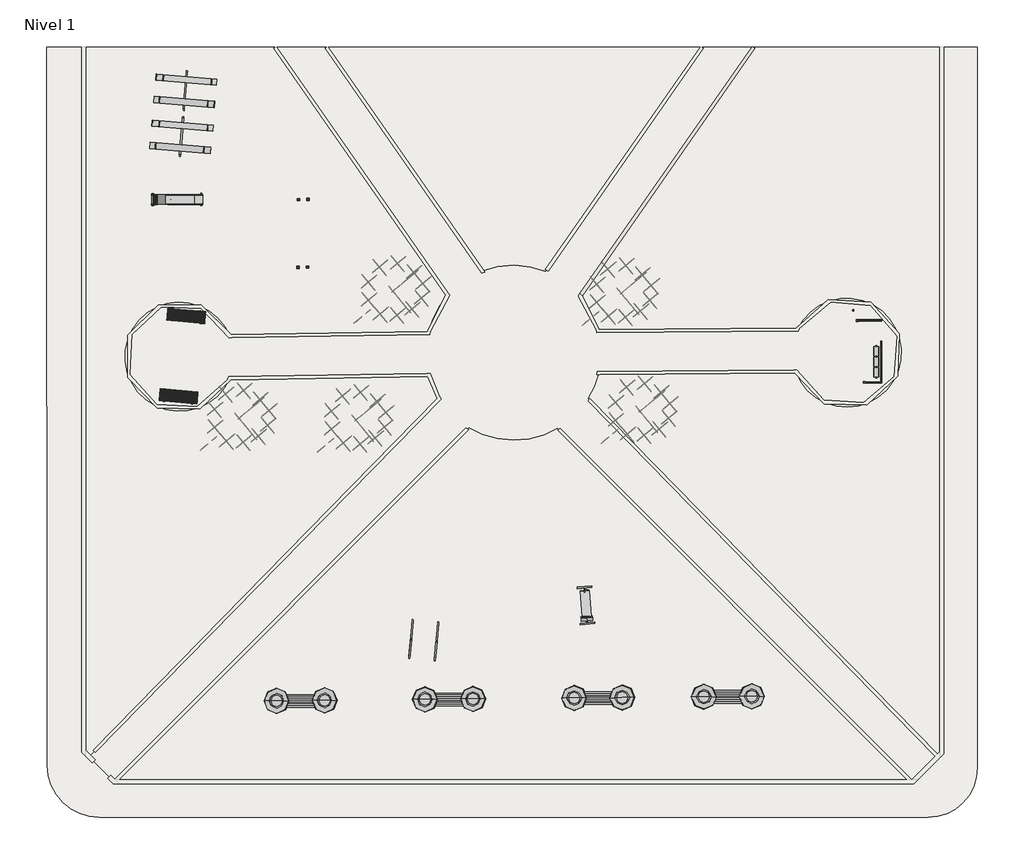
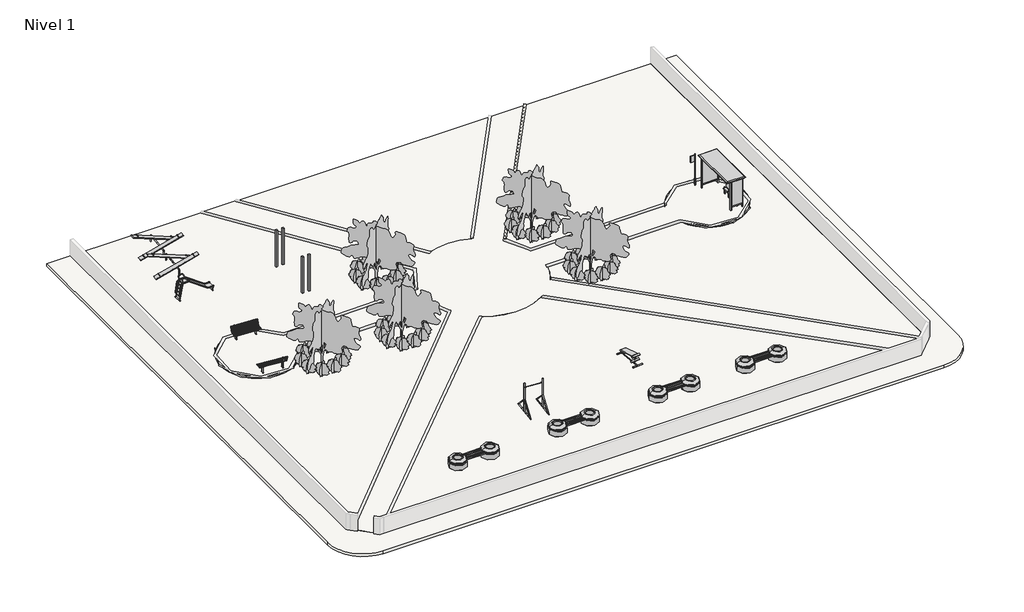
# One storey, part 2 of 2: 62 geographic elements, 5 slabs, 4 columns, 4 proxies, 1 furniture element, 1 wall.
"""IFC4 building model written with IfcOpenShell, lengths in millimetres."""

from ifc_helpers import new_model, si_unit, point, frame, frame_2d, origin, origin_with_axes, place, context, project, spatial, polyline, circle_curve, trimmed, segment, composite_curve, outline, extrude, transform, mapped, element, save
from components import free_weight_bench_4763_d84bd0a1, pull_up_bar_10004_pull_up_bar_c63d5902, see_saw_6871_see_saw_6871_e7888e2e, m_pilar_de_madera_b508f74c, furniture_a3808f5e, geographic_element_22c99d3a, geographic_element_cce4a2fd, geographic_element_1800mm_804ad783, geographic_element_3_4_x_3_2_m_97ed3e57, m_rpc_planta_tropical_630d91e0

model = new_model("IFC4")

# Units and contexts
model_context = context("Model", 3, world=origin())
ifc_project = project(units=[si_unit("LENGTHUNIT", "METRE", prefix="MILLI")], contexts=[model_context])

# Site, building, storey
site = spatial("IfcSite", under=ifc_project)
building = spatial("IfcBuilding", under=site)
storey = spatial("IfcBuildingStorey", under=building, Name="Nivel 1", Elevation=0.0)

# Proxies
placement = place(None, origin())
free_weight_bench_4763_shape = free_weight_bench_4763_d84bd0a1(model_context)
element("IfcBuildingElementProxy", 1, Name="Free_Weight_Bench_4763 : Leg_Extension_2465[1]", ObjectType="Free_Weight_Bench_4763 : Leg_Extension_2465[1]", at=placement, inside=storey, context=model_context, shape_type="MappedRepresentation", body=[
    mapped(free_weight_bench_4763_shape, transform((3094.1151895, 1456.5314446, 0.0), x_axis=(-0.07975910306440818, 0.9968141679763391, 0.0), y_axis=(-0.9968141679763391, -0.07975910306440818, 0.0), z_axis=(0.0, 0.0, 1.0))),
])
pull_up_bar_10004_pull_up_bar_shape = pull_up_bar_10004_pull_up_bar_c63d5902(model_context)
element("IfcBuildingElementProxy", 2, Name="Pull-Up_Bar_10004 : Pull-Up Bar", ObjectType="Pull-Up_Bar_10004 : Pull-Up Bar", at=placement, inside=storey, context=model_context, shape_type="MappedRepresentation", body=[
    mapped(pull_up_bar_10004_pull_up_bar_shape, transform((-3624.3629567, 710.0308073, 0.0), x_axis=(-0.9955203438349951, 0.09454758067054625, 0.0), y_axis=(-0.09454758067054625, -0.9955203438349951, 0.0), z_axis=(0.0, 0.0, 1.0))),
])
see_saw_6871_see_saw_6871_shape = see_saw_6871_see_saw_6871_e7888e2e(model_context)
element("IfcBuildingElementProxy", 3, Name="See_Saw_6871 : See_Saw_6871", ObjectType="See_Saw_6871 : See_Saw_6871", at=placement, inside=storey, context=model_context, shape_type="MappedRepresentation", body=[
    mapped(see_saw_6871_see_saw_6871_shape, transform((-14986.708454, 26891.7437946, 0.0), x_axis=(-0.9964872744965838, 0.0837443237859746, 0.0), y_axis=(-0.0837443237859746, -0.9964872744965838, 0.0), z_axis=(0.0, 0.0, 1.0))),
])
element("IfcBuildingElementProxy", 4, Name="See_Saw_6871 : See_Saw_6871", ObjectType="See_Saw_6871 : See_Saw_6871", at=placement, inside=storey, context=model_context, shape_type="MappedRepresentation", body=[
    mapped(see_saw_6871_see_saw_6871_shape, transform((-15170.9459663, 24699.4717907, 0.0), x_axis=(-0.9964872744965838, 0.0837443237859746, 0.0), y_axis=(-0.0837443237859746, -0.9964872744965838, 0.0), z_axis=(0.0, 0.0, 1.0))),
])

# Columns
m_pilar_de_madera_shape = m_pilar_de_madera_b508f74c(model_context)
element("IfcColumn", 5, ObjectType="M_Pilar de madera : 114 x 114 para culumpio", at=placement, inside=storey, context=model_context, shape_type="MappedRepresentation", body=[
    mapped(m_pilar_de_madera_shape, transform((-9148.3329493, 21712.3354365, 0.0), x_axis=(-0.007565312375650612, 0.9999713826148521, 0.0), y_axis=(-0.9999713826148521, -0.007565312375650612, 0.0), z_axis=(0.0, 0.0, 1.0))),
])
element("IfcColumn", 6, ObjectType="M_Pilar de madera : 114 x 114 para culumpio", at=placement, inside=storey, context=model_context, shape_type="MappedRepresentation", body=[
    mapped(m_pilar_de_madera_shape, transform((-9602.548604, 21708.4691926, 0.0), x_axis=(-0.007565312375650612, 0.9999713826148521, 0.0), y_axis=(-0.9999713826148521, -0.007565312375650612, 0.0), z_axis=(0.0, 0.0, 1.0))),
])
element("IfcColumn", 7, ObjectType="M_Pilar de madera : 114 x 114 para culumpio", at=placement, inside=storey, context=model_context, shape_type="MappedRepresentation", body=[
    mapped(m_pilar_de_madera_shape, transform((-9624.3389808, 18488.2069609, 0.0), x_axis=(-0.007565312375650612, 0.9999713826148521, 0.0), y_axis=(-0.9999713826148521, -0.007565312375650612, 0.0), z_axis=(0.0, 0.0, 1.0))),
])
element("IfcColumn", 8, ObjectType="M_Pilar de madera : 114 x 114 para culumpio", at=placement, inside=storey, context=model_context, shape_type="MappedRepresentation", body=[
    mapped(m_pilar_de_madera_shape, transform((-9168.5028964, 18494.2529775, 0.0), x_axis=(-0.007565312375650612, 0.9999713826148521, 0.0), y_axis=(-0.9999713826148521, -0.007565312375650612, 0.0), z_axis=(0.0, 0.0, 1.0))),
])

# Furniture
furniture_shape = furniture_a3808f5e(model_context)
element("IfcFurniture", 9, ObjectType="Escorregador_-_Slide_18603 : Escorregador_-_Slide_18603", at=placement, inside=storey, context=model_context, shape_type="MappedRepresentation", body=[
    mapped(furniture_shape, transform((-15374.5605653, 21712.3201099, 0.0), x_axis=(0.0, -1.0, 0.0), y_axis=(1.0, 0.0, 0.0), z_axis=(0.0, 0.0, 1.0))),
])

# Geographic elements
geographic_element_shape = geographic_element_22c99d3a(model_context)
element("IfcGeographicElement", 10, ObjectType="M_RPC Árbol - Caducifolio : Saúco - 4,5 metros", at=placement, inside=storey, context=model_context, shape_type="MappedRepresentation", body=[
    mapped(geographic_element_shape, transform((-12429.044991, 11289.6247779, 0.0), x_axis=(-0.6370839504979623, 0.7707944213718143, 0.0), y_axis=(-0.7707944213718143, -0.6370839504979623, 0.0), z_axis=(0.0, 0.0, 1.0))),
])
element("IfcGeographicElement", 11, ObjectType="M_RPC Árbol - Caducifolio : Saúco - 4,5 metros", at=placement, inside=storey, context=model_context, shape_type="MappedRepresentation", body=[
    mapped(geographic_element_shape, transform((-5102.7981747, 17344.9803106, 0.0), x_axis=(-0.6370839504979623, 0.7707944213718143, 0.0), y_axis=(-0.7707944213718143, -0.6370839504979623, 0.0), z_axis=(0.0, 0.0, 1.0))),
])
element("IfcGeographicElement", 12, ObjectType="M_RPC Árbol - Caducifolio : Saúco - 4,5 metros", at=placement, inside=storey, context=model_context, shape_type="MappedRepresentation", body=[
    mapped(geographic_element_shape, transform((5773.8938272, 17247.1149279, 0.0), x_axis=(-0.6370839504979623, 0.7707944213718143, 0.0), y_axis=(-0.7707944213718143, -0.6370839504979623, 0.0), z_axis=(0.0, 0.0, 1.0))),
])
element("IfcGeographicElement", 13, ObjectType="M_RPC Árbol - Caducifolio : Saúco - 4,5 metros", at=placement, inside=storey, context=model_context, shape_type="MappedRepresentation", body=[
    mapped(geographic_element_shape, transform((6668.445781, 11620.3593758, 0.0), x_axis=(-0.6370839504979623, 0.7707944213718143, 0.0), y_axis=(-0.7707944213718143, -0.6370839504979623, 0.0), z_axis=(0.0, 0.0, 1.0))),
])
element("IfcGeographicElement", 14, ObjectType="M_RPC Árbol - Caducifolio : Saúco - 4,5 metros", at=placement, inside=storey, context=model_context, shape_type="MappedRepresentation", body=[
    mapped(geographic_element_shape, transform((-6860.0935006, 11200.5129926, 0.0), x_axis=(-0.6370839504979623, 0.7707944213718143, 0.0), y_axis=(-0.7707944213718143, -0.6370839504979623, 0.0), z_axis=(0.0, 0.0, 1.0))),
])
geographic_element_2_shape = geographic_element_cce4a2fd(model_context)
element("IfcGeographicElement", 15, ObjectType="1454343723545-Bus stop : 1454343723545-Bus stop", at=placement, inside=storey, context=model_context, shape_type="MappedRepresentation", body=[
    mapped(geographic_element_2_shape, transform((18187.3090453, 14474.6119556, 12.5), x_axis=(-0.0032588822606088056, 0.9999946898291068, 0.0), y_axis=(-0.9999946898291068, -0.0032588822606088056, 0.0), z_axis=(0.0, 0.0, 1.0))),
])
geographic_element_1800mm_shape = geographic_element_1800mm_804ad783(model_context)
element("IfcGeographicElement", 16, ObjectType="M_Banco de parque : 1800mm", at=placement, inside=storey, context=model_context, shape_type="MappedRepresentation", body=[
    mapped(geographic_element_1800mm_shape, transform((-14939.7315285, 16196.5066111, 12.5), x_axis=(-0.9962320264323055, 0.08672802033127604, 0.0), y_axis=(-0.08672802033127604, -0.9962320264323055, 0.0), z_axis=(0.0, 0.0, 1.0))),
])
element("IfcGeographicElement", 17, ObjectType="M_Banco de parque : 1800mm", at=placement, inside=storey, context=model_context, shape_type="MappedRepresentation", body=[
    mapped(geographic_element_1800mm_shape, transform((-15309.6928818, 12299.8968152, 12.5), x_axis=(0.996232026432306, -0.08672802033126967, 0.0), y_axis=(0.08672802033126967, 0.996232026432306, 0.0), z_axis=(0.0, 0.0, 1.0))),
])
geographic_element_3_4_x_3_2_m_shape = geographic_element_3_4_x_3_2_m_97ed3e57(model_context)
element("IfcGeographicElement", 18, ObjectType="Puesto de flores con banco - 2 piezas : 3.4 x 3.2 m", at=placement, inside=storey, context=model_context, shape_type="MappedRepresentation", body=[
    mapped(geographic_element_3_4_x_3_2_m_shape, transform((10854.4729483, -1974.2765597, 0.0), x_axis=(-0.9999551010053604, -0.0094760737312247, 0.0), y_axis=(0.0094760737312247, -0.9999551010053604, 0.0), z_axis=(0.0, 0.0, 1.0))),
])
element("IfcGeographicElement", 19, ObjectType="Puesto de flores con banco - 2 piezas : 3.4 x 3.2 m", at=placement, inside=storey, context=model_context, shape_type="MappedRepresentation", body=[
    mapped(geographic_element_3_4_x_3_2_m_shape, transform((4680.4293775, -2032.7848788, 0.0), x_axis=(-0.9999551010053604, -0.0094760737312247, 0.0), y_axis=(0.0094760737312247, -0.9999551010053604, 0.0), z_axis=(0.0, 0.0, 1.0))),
])
element("IfcGeographicElement", 20, ObjectType="Puesto de flores con banco - 2 piezas : 3.4 x 3.2 m", at=placement, inside=storey, context=model_context, shape_type="MappedRepresentation", body=[
    mapped(geographic_element_3_4_x_3_2_m_shape, transform((-2424.3185292, -2100.1130168, 0.0), x_axis=(-0.9999551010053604, -0.0094760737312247, 0.0), y_axis=(0.0094760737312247, -0.9999551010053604, 0.0), z_axis=(0.0, 0.0, 1.0))),
])
element("IfcGeographicElement", 21, ObjectType="Puesto de flores con banco - 2 piezas : 3.4 x 3.2 m", at=placement, inside=storey, context=model_context, shape_type="MappedRepresentation", body=[
    mapped(geographic_element_3_4_x_3_2_m_shape, transform((-9493.226469, -2167.1015173, 0.0), x_axis=(-0.9999551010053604, -0.0094760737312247, 0.0), y_axis=(0.0094760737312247, -0.9999551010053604, 0.0), z_axis=(0.0, 0.0, 1.0))),
])
m_rpc_planta_tropical_shape = m_rpc_planta_tropical_630d91e0(model_context)
element("IfcGeographicElement", 22, ObjectType="M_RPC Planta - Tropical : Ixora coccinea - 1,0 metros", at=placement, inside=storey, context=model_context, shape_type="MappedRepresentation", body=[
    mapped(m_rpc_planta_tropical_shape, transform((-11517.8322012, 10441.0206934, 0.0), x_axis=(-0.6370839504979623, 0.7707944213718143, 0.0), y_axis=(-0.7707944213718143, -0.6370839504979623, 0.0), z_axis=(0.0, 0.0, 1.0))),
])
element("IfcGeographicElement", 23, ObjectType="M_RPC Planta - Tropical : Ixora coccinea - 1,0 metros", at=placement, inside=storey, context=model_context, shape_type="MappedRepresentation", body=[
    mapped(m_rpc_planta_tropical_shape, transform((-12232.6748707, 10146.9217796, 0.0), x_axis=(-0.6370839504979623, 0.7707944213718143, 0.0), y_axis=(-0.7707944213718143, -0.6370839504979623, 0.0), z_axis=(0.0, 0.0, 1.0))),
])
element("IfcGeographicElement", 24, ObjectType="M_RPC Planta - Tropical : Ixora coccinea - 1,0 metros", at=placement, inside=storey, context=model_context, shape_type="MappedRepresentation", body=[
    mapped(m_rpc_planta_tropical_shape, transform((-13035.3079291, 10202.1621158, 0.0), x_axis=(-0.6370839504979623, 0.7707944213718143, 0.0), y_axis=(-0.7707944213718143, -0.6370839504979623, 0.0), z_axis=(0.0, 0.0, 1.0))),
])
element("IfcGeographicElement", 25, ObjectType="M_RPC Planta - Tropical : Ixora coccinea - 1,0 metros", at=placement, inside=storey, context=model_context, shape_type="MappedRepresentation", body=[
    mapped(m_rpc_planta_tropical_shape, transform((-13597.5932581, 10860.3413234, 0.0), x_axis=(-0.6370839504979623, 0.7707944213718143, 0.0), y_axis=(-0.7707944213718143, -0.6370839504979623, 0.0), z_axis=(0.0, 0.0, 1.0))),
])
element("IfcGeographicElement", 26, ObjectType="M_RPC Planta - Tropical : Ixora coccinea - 1,0 metros", at=placement, inside=storey, context=model_context, shape_type="MappedRepresentation", body=[
    mapped(m_rpc_planta_tropical_shape, transform((-13597.8871549, 11717.8038159, 0.0), x_axis=(-0.6370839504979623, 0.7707944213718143, 0.0), y_axis=(-0.7707944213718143, -0.6370839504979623, 0.0), z_axis=(0.0, 0.0, 1.0))),
])
element("IfcGeographicElement", 27, ObjectType="M_RPC Planta - Tropical : Ixora coccinea - 1,0 metros", at=placement, inside=storey, context=model_context, shape_type="MappedRepresentation", body=[
    mapped(m_rpc_planta_tropical_shape, transform((-13075.3245413, 12442.2778267, 0.0), x_axis=(-0.6370839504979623, 0.7707944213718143, 0.0), y_axis=(-0.7707944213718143, -0.6370839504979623, 0.0), z_axis=(0.0, 0.0, 1.0))),
])
element("IfcGeographicElement", 28, ObjectType="M_RPC Planta - Tropical : Ixora coccinea - 1,0 metros", at=placement, inside=storey, context=model_context, shape_type="MappedRepresentation", body=[
    mapped(m_rpc_planta_tropical_shape, transform((-12212.5306293, 12613.3790684, 0.0), x_axis=(-0.6370839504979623, 0.7707944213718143, 0.0), y_axis=(-0.7707944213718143, -0.6370839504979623, 0.0), z_axis=(0.0, 0.0, 1.0))),
])
element("IfcGeographicElement", 29, ObjectType="M_RPC Planta - Tropical : Ixora coccinea - 1,0 metros", at=placement, inside=storey, context=model_context, shape_type="MappedRepresentation", body=[
    mapped(m_rpc_planta_tropical_shape, transform((-11441.1165161, 12187.019873, 0.0), x_axis=(-0.6370839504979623, 0.7707944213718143, 0.0), y_axis=(-0.7707944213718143, -0.6370839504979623, 0.0), z_axis=(0.0, 0.0, 1.0))),
])
element("IfcGeographicElement", 30, ObjectType="M_RPC Planta - Tropical : Ixora coccinea - 1,0 metros", at=placement, inside=storey, context=model_context, shape_type="MappedRepresentation", body=[
    mapped(m_rpc_planta_tropical_shape, transform((-11003.6198854, 11657.7019361, 0.0), x_axis=(-0.6370839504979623, 0.7707944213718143, 0.0), y_axis=(-0.7707944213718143, -0.6370839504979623, 0.0), z_axis=(0.0, 0.0, 1.0))),
])
element("IfcGeographicElement", 31, ObjectType="M_RPC Planta - Tropical : Ixora coccinea - 1,0 metros", at=placement, inside=storey, context=model_context, shape_type="MappedRepresentation", body=[
    mapped(m_rpc_planta_tropical_shape, transform((-11069.8031919, 10960.8376955, 0.0), x_axis=(-0.6370839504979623, 0.7707944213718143, 0.0), y_axis=(-0.7707944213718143, -0.6370839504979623, 0.0), z_axis=(0.0, 0.0, 1.0))),
])
element("IfcGeographicElement", 32, ObjectType="M_RPC Planta - Tropical : Ixora coccinea - 1,0 metros", at=placement, inside=storey, context=model_context, shape_type="MappedRepresentation", body=[
    mapped(m_rpc_planta_tropical_shape, transform((-4191.585385, 16496.3762261, 0.0), x_axis=(-0.6370839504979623, 0.7707944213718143, 0.0), y_axis=(-0.7707944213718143, -0.6370839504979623, 0.0), z_axis=(0.0, 0.0, 1.0))),
])
element("IfcGeographicElement", 33, ObjectType="M_RPC Planta - Tropical : Ixora coccinea - 1,0 metros", at=placement, inside=storey, context=model_context, shape_type="MappedRepresentation", body=[
    mapped(m_rpc_planta_tropical_shape, transform((-4906.4280545, 16202.2773123, 0.0), x_axis=(-0.6370839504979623, 0.7707944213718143, 0.0), y_axis=(-0.7707944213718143, -0.6370839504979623, 0.0), z_axis=(0.0, 0.0, 1.0))),
])
element("IfcGeographicElement", 34, ObjectType="M_RPC Planta - Tropical : Ixora coccinea - 1,0 metros", at=placement, inside=storey, context=model_context, shape_type="MappedRepresentation", body=[
    mapped(m_rpc_planta_tropical_shape, transform((-5709.0611129, 16257.5176485, 0.0), x_axis=(-0.6370839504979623, 0.7707944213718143, 0.0), y_axis=(-0.7707944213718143, -0.6370839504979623, 0.0), z_axis=(0.0, 0.0, 1.0))),
])
element("IfcGeographicElement", 35, ObjectType="M_RPC Planta - Tropical : Ixora coccinea - 1,0 metros", at=placement, inside=storey, context=model_context, shape_type="MappedRepresentation", body=[
    mapped(m_rpc_planta_tropical_shape, transform((-6271.3464418, 16915.6968561, 0.0), x_axis=(-0.6370839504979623, 0.7707944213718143, 0.0), y_axis=(-0.7707944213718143, -0.6370839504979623, 0.0), z_axis=(0.0, 0.0, 1.0))),
])
element("IfcGeographicElement", 36, ObjectType="M_RPC Planta - Tropical : Ixora coccinea - 1,0 metros", at=placement, inside=storey, context=model_context, shape_type="MappedRepresentation", body=[
    mapped(m_rpc_planta_tropical_shape, transform((-6271.6403386, 17773.1593486, 0.0), x_axis=(-0.6370839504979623, 0.7707944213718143, 0.0), y_axis=(-0.7707944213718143, -0.6370839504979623, 0.0), z_axis=(0.0, 0.0, 1.0))),
])
element("IfcGeographicElement", 37, ObjectType="M_RPC Planta - Tropical : Ixora coccinea - 1,0 metros", at=placement, inside=storey, context=model_context, shape_type="MappedRepresentation", body=[
    mapped(m_rpc_planta_tropical_shape, transform((-5749.0777251, 18497.6333594, 0.0), x_axis=(-0.6370839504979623, 0.7707944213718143, 0.0), y_axis=(-0.7707944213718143, -0.6370839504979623, 0.0), z_axis=(0.0, 0.0, 1.0))),
])
element("IfcGeographicElement", 38, ObjectType="M_RPC Planta - Tropical : Ixora coccinea - 1,0 metros", at=placement, inside=storey, context=model_context, shape_type="MappedRepresentation", body=[
    mapped(m_rpc_planta_tropical_shape, transform((-4886.283813, 18668.7346011, 0.0), x_axis=(-0.6370839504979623, 0.7707944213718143, 0.0), y_axis=(-0.7707944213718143, -0.6370839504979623, 0.0), z_axis=(0.0, 0.0, 1.0))),
])
element("IfcGeographicElement", 39, ObjectType="M_RPC Planta - Tropical : Ixora coccinea - 1,0 metros", at=placement, inside=storey, context=model_context, shape_type="MappedRepresentation", body=[
    mapped(m_rpc_planta_tropical_shape, transform((-4114.8696998, 18242.3754057, 0.0), x_axis=(-0.6370839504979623, 0.7707944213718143, 0.0), y_axis=(-0.7707944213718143, -0.6370839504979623, 0.0), z_axis=(0.0, 0.0, 1.0))),
])
element("IfcGeographicElement", 40, ObjectType="M_RPC Planta - Tropical : Ixora coccinea - 1,0 metros", at=placement, inside=storey, context=model_context, shape_type="MappedRepresentation", body=[
    mapped(m_rpc_planta_tropical_shape, transform((-3677.3730691, 17713.0574688, 0.0), x_axis=(-0.6370839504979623, 0.7707944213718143, 0.0), y_axis=(-0.7707944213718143, -0.6370839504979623, 0.0), z_axis=(0.0, 0.0, 1.0))),
])
element("IfcGeographicElement", 41, ObjectType="M_RPC Planta - Tropical : Ixora coccinea - 1,0 metros", at=placement, inside=storey, context=model_context, shape_type="MappedRepresentation", body=[
    mapped(m_rpc_planta_tropical_shape, transform((-3743.5563756, 17016.1932281, 0.0), x_axis=(-0.6370839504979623, 0.7707944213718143, 0.0), y_axis=(-0.7707944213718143, -0.6370839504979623, 0.0), z_axis=(0.0, 0.0, 1.0))),
])
element("IfcGeographicElement", 42, ObjectType="M_RPC Planta - Tropical : Ixora coccinea - 1,0 metros", at=placement, inside=storey, context=model_context, shape_type="MappedRepresentation", body=[
    mapped(m_rpc_planta_tropical_shape, transform((6685.1066169, 16398.5108434, 0.0), x_axis=(-0.6370839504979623, 0.7707944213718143, 0.0), y_axis=(-0.7707944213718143, -0.6370839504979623, 0.0), z_axis=(0.0, 0.0, 1.0))),
])
element("IfcGeographicElement", 43, ObjectType="M_RPC Planta - Tropical : Ixora coccinea - 1,0 metros", at=placement, inside=storey, context=model_context, shape_type="MappedRepresentation", body=[
    mapped(m_rpc_planta_tropical_shape, transform((5970.2639474, 16104.4119295, 0.0), x_axis=(-0.6370839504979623, 0.7707944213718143, 0.0), y_axis=(-0.7707944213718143, -0.6370839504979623, 0.0), z_axis=(0.0, 0.0, 1.0))),
])
element("IfcGeographicElement", 44, ObjectType="M_RPC Planta - Tropical : Ixora coccinea - 1,0 metros", at=placement, inside=storey, context=model_context, shape_type="MappedRepresentation", body=[
    mapped(m_rpc_planta_tropical_shape, transform((5167.6308891, 16159.6522657, 0.0), x_axis=(-0.6370839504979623, 0.7707944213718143, 0.0), y_axis=(-0.7707944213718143, -0.6370839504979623, 0.0), z_axis=(0.0, 0.0, 1.0))),
])
element("IfcGeographicElement", 45, ObjectType="M_RPC Planta - Tropical : Ixora coccinea - 1,0 metros", at=placement, inside=storey, context=model_context, shape_type="MappedRepresentation", body=[
    mapped(m_rpc_planta_tropical_shape, transform((4605.3455601, 16817.8314733, 0.0), x_axis=(-0.6370839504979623, 0.7707944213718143, 0.0), y_axis=(-0.7707944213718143, -0.6370839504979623, 0.0), z_axis=(0.0, 0.0, 1.0))),
])
element("IfcGeographicElement", 46, ObjectType="M_RPC Planta - Tropical : Ixora coccinea - 1,0 metros", at=placement, inside=storey, context=model_context, shape_type="MappedRepresentation", body=[
    mapped(m_rpc_planta_tropical_shape, transform((4605.0516633, 17675.2939659, 0.0), x_axis=(-0.6370839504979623, 0.7707944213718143, 0.0), y_axis=(-0.7707944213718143, -0.6370839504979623, 0.0), z_axis=(0.0, 0.0, 1.0))),
])
element("IfcGeographicElement", 47, ObjectType="M_RPC Planta - Tropical : Ixora coccinea - 1,0 metros", at=placement, inside=storey, context=model_context, shape_type="MappedRepresentation", body=[
    mapped(m_rpc_planta_tropical_shape, transform((5127.6142768, 18399.7679767, 0.0), x_axis=(-0.6370839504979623, 0.7707944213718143, 0.0), y_axis=(-0.7707944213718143, -0.6370839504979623, 0.0), z_axis=(0.0, 0.0, 1.0))),
])
element("IfcGeographicElement", 48, ObjectType="M_RPC Planta - Tropical : Ixora coccinea - 1,0 metros", at=placement, inside=storey, context=model_context, shape_type="MappedRepresentation", body=[
    mapped(m_rpc_planta_tropical_shape, transform((5990.4081889, 18570.8692184, 0.0), x_axis=(-0.6370839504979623, 0.7707944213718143, 0.0), y_axis=(-0.7707944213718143, -0.6370839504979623, 0.0), z_axis=(0.0, 0.0, 1.0))),
])
element("IfcGeographicElement", 49, ObjectType="M_RPC Planta - Tropical : Ixora coccinea - 1,0 metros", at=placement, inside=storey, context=model_context, shape_type="MappedRepresentation", body=[
    mapped(m_rpc_planta_tropical_shape, transform((6761.8223021, 18144.5100229, 0.0), x_axis=(-0.6370839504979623, 0.7707944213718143, 0.0), y_axis=(-0.7707944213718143, -0.6370839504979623, 0.0), z_axis=(0.0, 0.0, 1.0))),
])
element("IfcGeographicElement", 50, ObjectType="M_RPC Planta - Tropical : Ixora coccinea - 1,0 metros", at=placement, inside=storey, context=model_context, shape_type="MappedRepresentation", body=[
    mapped(m_rpc_planta_tropical_shape, transform((7199.3189328, 17615.1920861, 0.0), x_axis=(-0.6370839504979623, 0.7707944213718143, 0.0), y_axis=(-0.7707944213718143, -0.6370839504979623, 0.0), z_axis=(0.0, 0.0, 1.0))),
])
element("IfcGeographicElement", 51, ObjectType="M_RPC Planta - Tropical : Ixora coccinea - 1,0 metros", at=placement, inside=storey, context=model_context, shape_type="MappedRepresentation", body=[
    mapped(m_rpc_planta_tropical_shape, transform((7133.1356263, 16918.3278454, 0.0), x_axis=(-0.6370839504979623, 0.7707944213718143, 0.0), y_axis=(-0.7707944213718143, -0.6370839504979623, 0.0), z_axis=(0.0, 0.0, 1.0))),
])
element("IfcGeographicElement", 52, ObjectType="M_RPC Planta - Tropical : Ixora coccinea - 1,0 metros", at=placement, inside=storey, context=model_context, shape_type="MappedRepresentation", body=[
    mapped(m_rpc_planta_tropical_shape, transform((7579.6585707, 10771.7552913, 0.0), x_axis=(-0.6370839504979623, 0.7707944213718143, 0.0), y_axis=(-0.7707944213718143, -0.6370839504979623, 0.0), z_axis=(0.0, 0.0, 1.0))),
])
element("IfcGeographicElement", 53, ObjectType="M_RPC Planta - Tropical : Ixora coccinea - 1,0 metros", at=placement, inside=storey, context=model_context, shape_type="MappedRepresentation", body=[
    mapped(m_rpc_planta_tropical_shape, transform((6864.8159012, 10477.6563774, 0.0), x_axis=(-0.6370839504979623, 0.7707944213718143, 0.0), y_axis=(-0.7707944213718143, -0.6370839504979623, 0.0), z_axis=(0.0, 0.0, 1.0))),
])
element("IfcGeographicElement", 54, ObjectType="M_RPC Planta - Tropical : Ixora coccinea - 1,0 metros", at=placement, inside=storey, context=model_context, shape_type="MappedRepresentation", body=[
    mapped(m_rpc_planta_tropical_shape, transform((6062.1828429, 10532.8967136, 0.0), x_axis=(-0.6370839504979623, 0.7707944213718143, 0.0), y_axis=(-0.7707944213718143, -0.6370839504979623, 0.0), z_axis=(0.0, 0.0, 1.0))),
])
element("IfcGeographicElement", 55, ObjectType="M_RPC Planta - Tropical : Ixora coccinea - 1,0 metros", at=placement, inside=storey, context=model_context, shape_type="MappedRepresentation", body=[
    mapped(m_rpc_planta_tropical_shape, transform((5499.8975139, 11191.0759212, 0.0), x_axis=(-0.6370839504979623, 0.7707944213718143, 0.0), y_axis=(-0.7707944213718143, -0.6370839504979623, 0.0), z_axis=(0.0, 0.0, 1.0))),
])
element("IfcGeographicElement", 56, ObjectType="M_RPC Planta - Tropical : Ixora coccinea - 1,0 metros", at=placement, inside=storey, context=model_context, shape_type="MappedRepresentation", body=[
    mapped(m_rpc_planta_tropical_shape, transform((5499.6036171, 12048.5384138, 0.0), x_axis=(-0.6370839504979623, 0.7707944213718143, 0.0), y_axis=(-0.7707944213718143, -0.6370839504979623, 0.0), z_axis=(0.0, 0.0, 1.0))),
])
element("IfcGeographicElement", 57, ObjectType="M_RPC Planta - Tropical : Ixora coccinea - 1,0 metros", at=placement, inside=storey, context=model_context, shape_type="MappedRepresentation", body=[
    mapped(m_rpc_planta_tropical_shape, transform((6022.1662306, 12773.0124246, 0.0), x_axis=(-0.6370839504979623, 0.7707944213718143, 0.0), y_axis=(-0.7707944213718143, -0.6370839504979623, 0.0), z_axis=(0.0, 0.0, 1.0))),
])
element("IfcGeographicElement", 58, ObjectType="M_RPC Planta - Tropical : Ixora coccinea - 1,0 metros", at=placement, inside=storey, context=model_context, shape_type="MappedRepresentation", body=[
    mapped(m_rpc_planta_tropical_shape, transform((6884.9601427, 12944.1136663, 0.0), x_axis=(-0.6370839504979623, 0.7707944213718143, 0.0), y_axis=(-0.7707944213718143, -0.6370839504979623, 0.0), z_axis=(0.0, 0.0, 1.0))),
])
element("IfcGeographicElement", 59, ObjectType="M_RPC Planta - Tropical : Ixora coccinea - 1,0 metros", at=placement, inside=storey, context=model_context, shape_type="MappedRepresentation", body=[
    mapped(m_rpc_planta_tropical_shape, transform((7656.3742559, 12517.7544708, 0.0), x_axis=(-0.6370839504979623, 0.7707944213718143, 0.0), y_axis=(-0.7707944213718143, -0.6370839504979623, 0.0), z_axis=(0.0, 0.0, 1.0))),
])
element("IfcGeographicElement", 60, ObjectType="M_RPC Planta - Tropical : Ixora coccinea - 1,0 metros", at=placement, inside=storey, context=model_context, shape_type="MappedRepresentation", body=[
    mapped(m_rpc_planta_tropical_shape, transform((8093.8708866, 11988.436534, 0.0), x_axis=(-0.6370839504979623, 0.7707944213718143, 0.0), y_axis=(-0.7707944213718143, -0.6370839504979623, 0.0), z_axis=(0.0, 0.0, 1.0))),
])
element("IfcGeographicElement", 61, ObjectType="M_RPC Planta - Tropical : Ixora coccinea - 1,0 metros", at=placement, inside=storey, context=model_context, shape_type="MappedRepresentation", body=[
    mapped(m_rpc_planta_tropical_shape, transform((8027.6875801, 11291.5722933, 0.0), x_axis=(-0.6370839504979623, 0.7707944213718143, 0.0), y_axis=(-0.7707944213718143, -0.6370839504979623, 0.0), z_axis=(0.0, 0.0, 1.0))),
])
element("IfcGeographicElement", 62, ObjectType="M_RPC Planta - Tropical : Ixora coccinea - 1,0 metros", at=placement, inside=storey, context=model_context, shape_type="MappedRepresentation", body=[
    mapped(m_rpc_planta_tropical_shape, transform((-5948.8807109, 10351.9089081, 0.0), x_axis=(-0.6370839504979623, 0.7707944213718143, 0.0), y_axis=(-0.7707944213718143, -0.6370839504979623, 0.0), z_axis=(0.0, 0.0, 1.0))),
])
element("IfcGeographicElement", 63, ObjectType="M_RPC Planta - Tropical : Ixora coccinea - 1,0 metros", at=placement, inside=storey, context=model_context, shape_type="MappedRepresentation", body=[
    mapped(m_rpc_planta_tropical_shape, transform((-6663.7233804, 10057.8099942, 0.0), x_axis=(-0.6370839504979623, 0.7707944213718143, 0.0), y_axis=(-0.7707944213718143, -0.6370839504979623, 0.0), z_axis=(0.0, 0.0, 1.0))),
])
element("IfcGeographicElement", 64, ObjectType="M_RPC Planta - Tropical : Ixora coccinea - 1,0 metros", at=placement, inside=storey, context=model_context, shape_type="MappedRepresentation", body=[
    mapped(m_rpc_planta_tropical_shape, transform((-7466.3564388, 10113.0503304, 0.0), x_axis=(-0.6370839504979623, 0.7707944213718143, 0.0), y_axis=(-0.7707944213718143, -0.6370839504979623, 0.0), z_axis=(0.0, 0.0, 1.0))),
])
element("IfcGeographicElement", 65, ObjectType="M_RPC Planta - Tropical : Ixora coccinea - 1,0 metros", at=placement, inside=storey, context=model_context, shape_type="MappedRepresentation", body=[
    mapped(m_rpc_planta_tropical_shape, transform((-8028.6417677, 10771.229538, 0.0), x_axis=(-0.6370839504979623, 0.7707944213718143, 0.0), y_axis=(-0.7707944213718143, -0.6370839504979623, 0.0), z_axis=(0.0, 0.0, 1.0))),
])
element("IfcGeographicElement", 66, ObjectType="M_RPC Planta - Tropical : Ixora coccinea - 1,0 metros", at=placement, inside=storey, context=model_context, shape_type="MappedRepresentation", body=[
    mapped(m_rpc_planta_tropical_shape, transform((-8028.9356645, 11628.6920306, 0.0), x_axis=(-0.6370839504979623, 0.7707944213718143, 0.0), y_axis=(-0.7707944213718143, -0.6370839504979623, 0.0), z_axis=(0.0, 0.0, 1.0))),
])
element("IfcGeographicElement", 67, ObjectType="M_RPC Planta - Tropical : Ixora coccinea - 1,0 metros", at=placement, inside=storey, context=model_context, shape_type="MappedRepresentation", body=[
    mapped(m_rpc_planta_tropical_shape, transform((-7506.373051, 12353.1660414, 0.0), x_axis=(-0.6370839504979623, 0.7707944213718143, 0.0), y_axis=(-0.7707944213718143, -0.6370839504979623, 0.0), z_axis=(0.0, 0.0, 1.0))),
])
element("IfcGeographicElement", 68, ObjectType="M_RPC Planta - Tropical : Ixora coccinea - 1,0 metros", at=placement, inside=storey, context=model_context, shape_type="MappedRepresentation", body=[
    mapped(m_rpc_planta_tropical_shape, transform((-6643.5791389, 12524.2672831, 0.0), x_axis=(-0.6370839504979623, 0.7707944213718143, 0.0), y_axis=(-0.7707944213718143, -0.6370839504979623, 0.0), z_axis=(0.0, 0.0, 1.0))),
])
element("IfcGeographicElement", 69, ObjectType="M_RPC Planta - Tropical : Ixora coccinea - 1,0 metros", at=placement, inside=storey, context=model_context, shape_type="MappedRepresentation", body=[
    mapped(m_rpc_planta_tropical_shape, transform((-5872.1650257, 12097.9080876, 0.0), x_axis=(-0.6370839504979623, 0.7707944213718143, 0.0), y_axis=(-0.7707944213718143, -0.6370839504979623, 0.0), z_axis=(0.0, 0.0, 1.0))),
])
element("IfcGeographicElement", 70, ObjectType="M_RPC Planta - Tropical : Ixora coccinea - 1,0 metros", at=placement, inside=storey, context=model_context, shape_type="MappedRepresentation", body=[
    mapped(m_rpc_planta_tropical_shape, transform((-5434.668395, 11568.5901508, 0.0), x_axis=(-0.6370839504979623, 0.7707944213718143, 0.0), y_axis=(-0.7707944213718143, -0.6370839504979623, 0.0), z_axis=(0.0, 0.0, 1.0))),
])
element("IfcGeographicElement", 71, ObjectType="M_RPC Planta - Tropical : Ixora coccinea - 1,0 metros", at=placement, inside=storey, context=model_context, shape_type="MappedRepresentation", body=[
    mapped(m_rpc_planta_tropical_shape, transform((-5500.8517015, 10871.7259101, 0.0), x_axis=(-0.6370839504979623, 0.7707944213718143, 0.0), y_axis=(-0.7707944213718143, -0.6370839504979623, 0.0), z_axis=(0.0, 0.0, 1.0))),
])

# Slabs
element("IfcSlab", 72, ObjectType="Adoquinado 150 mm", at=placement, inside=storey, context=model_context, shape_type="SweptSolid", body=[
    extrude(outline(composite_curve([segment(trimmed(circle_curve(frame_2d((16524.149418, 14416.8295115)), 2596.8877015), [point((14168.865284, 15510.6587405))], [point((14090.7275799, 13510.0308061))], False, "CARTESIAN"), True, "CONTINUOUS"), segment(polyline([(14090.7275799, 13510.0308061), (4696.9054815, 13441.0266132)]), True, "CONTINUOUS"), segment(trimmed(circle_curve(frame_2d((645.9469836, 14411.296467)), 4165.5357808), [point((4696.9054815, 13441.0266132))], [point((4187.7229954, 12218.6927583))], False, "CARTESIAN"), True, "CONTINUOUS"), segment(polyline([(4187.7229954, 12218.6927583), (20865.0713766, -4841.4113005), (19642.3268677, -6064.1558094), (2757.538702, 10820.6323563)]), True, "CONTINUOUS"), segment(trimmed(circle_curve(frame_2d((645.9469836, 14411.296467)), 4165.5357808), [point((2757.538702, 10820.6323563))], [point((-1496.0514348, 10838.6880199))], False, "CARTESIAN"), True, "CONTINUOUS"), segment(polyline([(-1496.0514348, 10838.6880199), (-18371.7052161, -6036.9657614), (-19569.2669666, -4839.4040108), (-2895.744119, 12218.555608)]), True, "CONTINUOUS"), segment(trimmed(circle_curve(frame_2d((645.9469836, 14411.296467)), 4165.5357808), [point((-2895.744119, 12218.555608))], [point((-3381.357051, 13347.1016753))], False, "CARTESIAN"), True, "CONTINUOUS"), segment(polyline([(-3381.357051, 13347.1016753), (-12871.9850519, 13196.1202703)]), True, "CONTINUOUS"), segment(trimmed(circle_curve(frame_2d((-15257.9321822, 14221.3431852)), 2596.8877015), [point((-12871.9850519, 13196.1202703))], [point((-12851.171673, 15196.7044441))], False, "CARTESIAN"), True, "CONTINUOUS"), segment(polyline([(-12851.171673, 15196.7044441), (-3413.1699724, 15346.8486457)]), True, "CONTINUOUS"), segment(trimmed(circle_curve(frame_2d((645.9469836, 14411.296467)), 4165.5357808), [point((-3413.1699724, 15346.8486457))], [point((-2485.4065819, 17158.351834))], False, "CARTESIAN"), True, "CONTINUOUS"), segment(polyline([(-2485.4065819, 17158.351834), (-10705.1541818, 28963.0342386), (-8268.0648836, 28963.0342386), (-844.1043908, 18301.2110217)]), True, "CONTINUOUS"), segment(trimmed(circle_curve(frame_2d((645.9469836, 14411.296467)), 4165.5357808), [point((-844.1043908, 18301.2110217))], [point((2194.735205, 18278.2000585))], False, "CARTESIAN"), True, "CONTINUOUS"), segment(polyline([(2194.735205, 18278.2000585), (9634.7251807, 28963.0342386), (12071.8151902, 28963.0342386), (3818.6957377, 17110.435901)]), True, "CONTINUOUS"), segment(trimmed(circle_curve(frame_2d((645.9469836, 14411.296467)), 4165.5357808), [point((3818.6957377, 17110.435901))], [point((4682.2144784, 15440.9726546))], False, "CARTESIAN"), True, "CONTINUOUS"), segment(polyline([(4682.2144784, 15440.9726546), (14168.865284, 15510.6587405)]), True, "CONTINUOUS")], self_intersect=False)), frame((0.0, 0.0, -137.5), z_axis=(0.0, 0.0, 1.0), x_axis=(1.0, 0.0, 0.0)), (0.0, 0.0, 1.0), 150.0),
])
element("IfcSlab", 73, ObjectType="Cesped 125 mm", at=placement, inside=storey, context=model_context, shape_type="SweptSolid", body=[
    extrude(outline(composite_curve([segment(trimmed(circle_curve(frame_2d((645.9469836, 14411.296467)), 4165.5357808), [point((-1496.0514348, 10838.6880199))], [point((2757.538702, 10820.6323563))], True, "CARTESIAN"), True, "CONTINUOUS"), segment(polyline([(2757.538702, 10820.6323563), (19615.1368197, -6036.9657614), (-18371.7052161, -6036.9657614), (-1496.0514348, 10838.6880199)]), True, "CONTINUOUS")], self_intersect=False)), frame((0.0, 0.0, -125.0), z_axis=(0.0, 0.0, 1.0), x_axis=(1.0, 0.0, 0.0)), (0.0, 0.0, 1.0), 125.0),
])
element("IfcSlab", 74, ObjectType="Cesped 125 mm", at=placement, inside=storey, context=model_context, shape_type="SweptSolid", body=[
    extrude(outline(composite_curve([segment(polyline([(-2895.744119, 12218.555608), (-19499.3621762, -4767.887445), (-19745.5365974, -4521.7130238), (-19785.470992, 28963.0342386), (-10705.1541818, 28963.0342386), (-2485.4065819, 17158.351834)]), True, "CONTINUOUS"), segment(trimmed(circle_curve(frame_2d((645.9469836, 14411.296467)), 4165.5357808), [point((-2485.4065819, 17158.351834))], [point((-3413.1699724, 15346.8486457))], True, "CARTESIAN"), True, "CONTINUOUS"), segment(polyline([(-3413.1699724, 15346.8486457), (-12851.171673, 15196.7044441)]), True, "CONTINUOUS"), segment(trimmed(circle_curve(frame_2d((-15257.9321822, 14221.3431852)), 2596.8877015), [point((-12851.171673, 15196.7044441))], [point((-12871.9850519, 13196.1202703))], True, "CARTESIAN"), True, "CONTINUOUS"), segment(polyline([(-12871.9850519, 13196.1202703), (-3381.357051, 13347.1016753)]), True, "CONTINUOUS"), segment(trimmed(circle_curve(frame_2d((645.9469836, 14411.296467)), 4165.5357808), [point((-3381.357051, 13347.1016753))], [point((-2895.744119, 12218.555608))], True, "CARTESIAN"), True, "CONTINUOUS")], self_intersect=False)), frame((0.0, 0.0, -125.0), z_axis=(0.0, 0.0, 1.0), x_axis=(1.0, 0.0, 0.0)), (0.0, 0.0, 1.0), 125.0),
])
element("IfcSlab", 75, ObjectType="Cesped 125 mm", at=placement, inside=storey, context=model_context, shape_type="SweptSolid", body=[
    extrude(outline(composite_curve([segment(polyline([(3818.6957377, 17110.435901), (12071.8151902, 28963.0342386), (21046.042238, 28963.0342386), (21046.042238, -4519.0190829), (20795.1629201, -4769.8984008), (4187.7229954, 12218.6927583)]), True, "CONTINUOUS"), segment(trimmed(circle_curve(frame_2d((645.9469836, 14411.296467)), 4165.5357808), [point((4187.7229954, 12218.6927583))], [point((4696.9054815, 13441.0266132))], True, "CARTESIAN"), True, "CONTINUOUS"), segment(polyline([(4696.9054815, 13441.0266132), (14090.7275799, 13510.0308061)]), True, "CONTINUOUS"), segment(trimmed(circle_curve(frame_2d((16524.149418, 14416.8295115)), 2596.8877015), [point((14090.7275799, 13510.0308061))], [point((14168.865284, 15510.6587405))], True, "CARTESIAN"), True, "CONTINUOUS"), segment(polyline([(14168.865284, 15510.6587405), (4682.2144784, 15440.9726546)]), True, "CONTINUOUS"), segment(trimmed(circle_curve(frame_2d((645.9469836, 14411.296467)), 4165.5357808), [point((4682.2144784, 15440.9726546))], [point((3818.6957377, 17110.435901))], True, "CARTESIAN"), True, "CONTINUOUS")], self_intersect=False)), frame((0.0, 0.0, -125.0), z_axis=(0.0, 0.0, 1.0), x_axis=(1.0, 0.0, 0.0)), (0.0, 0.0, 1.0), 125.0),
    extrude(outline(composite_curve([segment(polyline([(9634.7251807, 28963.0342386), (2194.735205, 18278.2000585)]), True, "CONTINUOUS"), segment(trimmed(circle_curve(frame_2d((645.9469836, 14411.296467)), 4165.5357808), [point((2194.735205, 18278.2000585))], [point((-844.1043908, 18301.2110217))], True, "CARTESIAN"), True, "CONTINUOUS"), segment(polyline([(-844.1043908, 18301.2110217), (-8268.0648836, 28963.0342386), (9634.7251807, 28963.0342386)]), True, "CONTINUOUS")], self_intersect=False)), frame((0.0, 0.0, -125.0), z_axis=(0.0, 0.0, 1.0), x_axis=(1.0, 0.0, 0.0)), (0.0, 0.0, 1.0), 125.0),
])
element("IfcSlab", 76, ObjectType="Genérico 75 mm", at=placement, inside=storey, context=model_context, shape_type="SweptSolid", body=[
    extrude(outline(composite_curve([segment(polyline([(-19795.5540131, 28960.8875341), (-19755.6342212, -4511.6154), (-18330.2838598, -5936.9657614), (19628.0955595, -5936.9657614), (20946.042238, -4619.0190829), (20946.042238, 28963.0342386), (22746.042238, 28963.0342386), (22746.042238, -5364.6034952)]), True, "CONTINUOUS"), segment(trimmed(circle_curve(frame_2d((20373.6799718, -5364.6034952)), 2372.3622662), [point((22746.042238, -5364.6034952))], [point((20373.6799718, -7736.9657614))], False, "CARTESIAN"), True, "CONTINUOUS"), segment(polyline([(20373.6799718, -7736.9657614), (-19075.8682721, -7736.9657614)]), True, "CONTINUOUS"), segment(trimmed(circle_curve(frame_2d((-19075.8682721, -5258.0887871)), 2478.8769743), [point((-19075.8682721, -7736.9657614))], [point((-21554.7452463, -5258.0887871))], False, "CARTESIAN"), True, "CONTINUOUS"), segment(polyline([(-21554.7452463, -5258.0887871), (-21595.5552932, 28960.8875341), (-19795.5540131, 28960.8875341)]), True, "CONTINUOUS")], self_intersect=False)), frame((0.0, 0.0, -195.0), z_axis=(0.0, 0.0, 1.0), x_axis=(1.0, 0.0, 0.0)), (0.0, 0.0, 1.0), 195.0),
])

# Wall
element("IfcWall", 77, ObjectType="150 mm bordillo", at=placement, inside=storey, context=model_context, shape_type="SweptSolid", body=[
    extrude(outline(composite_curve([segment(polyline([(3812.1032902, 17232.2179388), (12010.2663761, 29005.891484), (12133.3640044, 28920.1769933), (3913.0385069, 17114.6752207)]), True, "CONTINUOUS"), segment(trimmed(circle_curve(frame_2d((645.9469836, 14411.296467)), 4240.5357808), [point((3913.0385069, 17114.6752207))], [point((3812.1032902, 17232.2179388))], True, "CARTESIAN"), True, "CONTINUOUS")], self_intersect=False)), origin_with_axes(), (0.0, 0.0, 1.0), 100.0),
])

save(model, "model.ifc")
